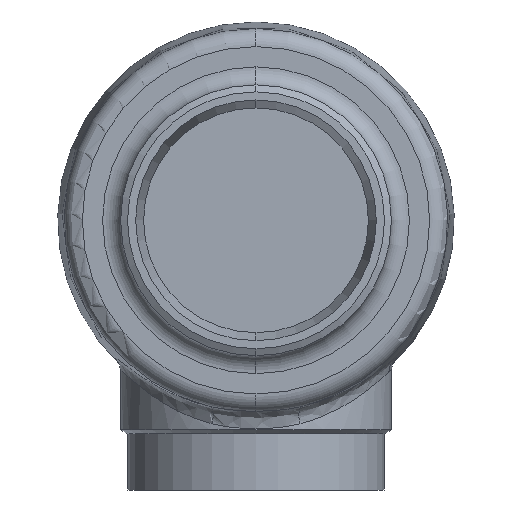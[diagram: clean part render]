
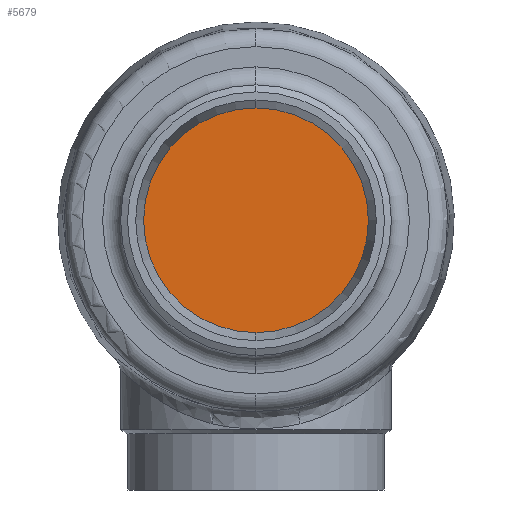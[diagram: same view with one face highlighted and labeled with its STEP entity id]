
A CAD part, front view. The second image highlights one B-rep face of the part: STEP entity #5679.
In plain terms, the highlighted planar face has unit normal (0, -1, 0) as drawn and (0, 0, 1) by its records, which use the part's own axes.
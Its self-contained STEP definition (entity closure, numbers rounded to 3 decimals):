
#568 = EDGE_CURVE ( 'NONE', #15038, #15240, #13871, .T. ) ;
#1238 = FACE_OUTER_BOUND ( 'NONE', #5458, .T. ) ;
#1242 = PLANE ( 'NONE',  #1243 ) ;
#1243 = AXIS2_PLACEMENT_3D ( 'NONE', #1244, #1245, #1246 ) ;
#1244 = CARTESIAN_POINT ( 'NONE',  ( 0., 0., 17.5 ) ) ;
#1245 = DIRECTION ( 'NONE',  ( 0., 0., 1. ) ) ;
#1246 = DIRECTION ( 'NONE',  ( 1., 0., 0. ) ) ;
#1864 = CIRCLE ( 'NONE', #1865, 57.5 ) ;
#1865 = AXIS2_PLACEMENT_3D ( 'NONE', #1866, #1867, #1868 ) ;
#1866 = CARTESIAN_POINT ( 'NONE',  ( 0., 0., 17.5 ) ) ;
#1867 = DIRECTION ( 'NONE',  ( 0., 0., 1. ) ) ;
#1868 = DIRECTION ( 'NONE',  ( 1., 0., 0. ) ) ;
#2106 = CARTESIAN_POINT ( 'NONE',  ( 57.5, 0., 17.5 ) ) ;
#4502 = ORIENTED_EDGE ( 'NONE', *, *, #10681, .T. ) ;
#4980 = ORIENTED_EDGE ( 'NONE', *, *, #568, .T. ) ;
#5458 = EDGE_LOOP ( 'NONE', ( #4980, #4502 ) ) ;
#5679 = ADVANCED_FACE ( 'NONE', ( #1238 ), #1242, .T. ) ;
#10681 = EDGE_CURVE ( 'NONE', #15240, #15038, #1864, .T. ) ;
#11473 = CARTESIAN_POINT ( 'NONE',  ( -57.5, 0., 17.5 ) ) ;
#13871 = CIRCLE ( 'NONE', #13872, 57.5 ) ;
#13872 = AXIS2_PLACEMENT_3D ( 'NONE', #13873, #13874, #13875 ) ;
#13873 = CARTESIAN_POINT ( 'NONE',  ( 0., 0., 17.5 ) ) ;
#13874 = DIRECTION ( 'NONE',  ( 0., 0., 1. ) ) ;
#13875 = DIRECTION ( 'NONE',  ( 1., 0., 0. ) ) ;
#15038 = VERTEX_POINT ( 'NONE', #11473 ) ;
#15240 = VERTEX_POINT ( 'NONE', #2106 ) ;
